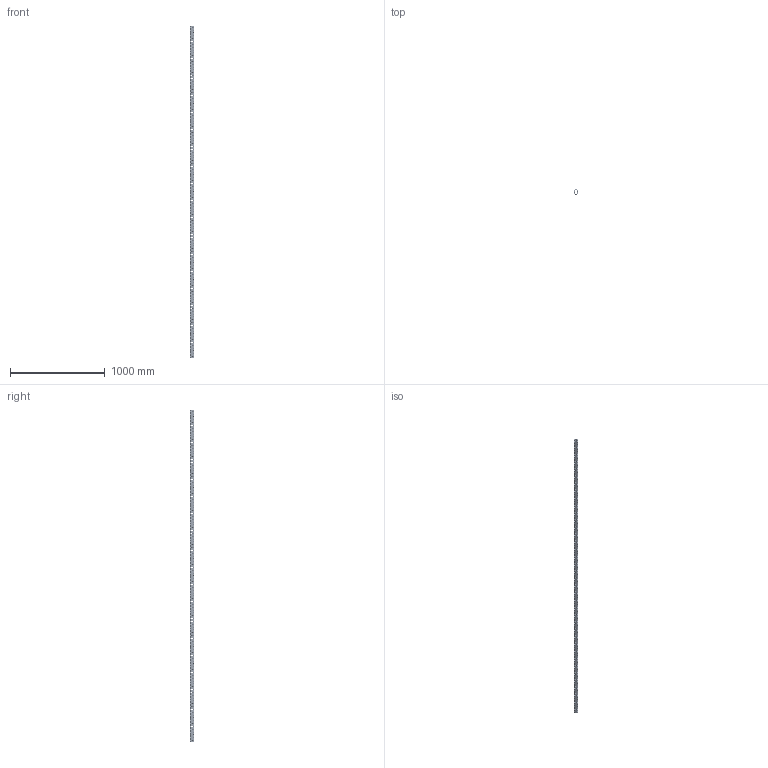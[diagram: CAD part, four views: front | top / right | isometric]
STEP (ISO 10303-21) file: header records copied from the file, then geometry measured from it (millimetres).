
FILE_DESCRIPTION(('CATIA V5 STEP Exchange'),'2;1');
FILE_NAME('U:\Room\唐宝山\EGT002\46-01-010346-01-EGT002-3508.stp','2021-08-24T09:42:30+00:00',('none'),('none'),'CATIA Version 5 Release 21 GA (IN-10)','CATIA V5 STEP AP203','none');
FILE_SCHEMA(('CONFIG_CONTROL_DESIGN'));
Products named in the file (1): 46-01-010346-01-EGT002-3508
Bounding box: 50 x 50 x 3508 mm (x, y, z)
Volume: 2499618.4 mm3; surface area: 1203740.9 mm2
Topology: 1 solids, 1 shells, 4764 faces, 13116 edges, 8120 vertices
Faces by surface type: cone 2808, cylinder 1930, plane 26
Entity records: 202450 total; most frequent: CARTESIAN_POINT 87837, ORIENTED_EDGE 26232, DIRECTION 18204, EDGE_CURVE 13116, AXIS2_PLACEMENT_3D 8397, VERTEX_POINT 8120, EDGE_LOOP 6404, VECTOR 5044
